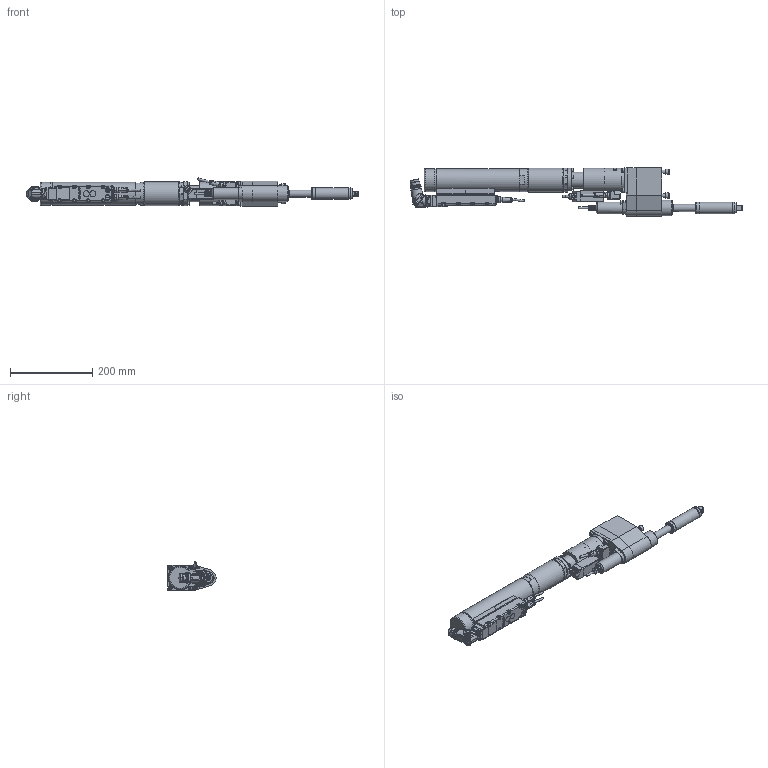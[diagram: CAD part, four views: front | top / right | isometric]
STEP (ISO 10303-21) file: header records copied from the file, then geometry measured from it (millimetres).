
FILE_DESCRIPTION (( 'STEP AP214' ), '1' );
FILE_NAME ('70082500_ESX213DRX140WX2AODX250-140.STEP', '2016-11-15T06:13:21', ( 'admin' ), ( '' ), 'SwSTEP 2.0', 'SolidWorks 2014', '' );
FILE_SCHEMA (( 'AUTOMOTIVE_DESIGN' ));
Length unit declared in the file: millimetre
Products named in the file (12): 70082304_ESX213_Standard_Winkel_2; 70082293_2; 70057493_Standard_winkel; 70057493_4; 70057493_3; 70057493_2; 70082304; 70082500_ESX213DRX140WX2AODX250-140; 7002049_3; 70082382; 70082361; 70082322
Assembly tree (12 placements, depth 4):
  70082500_ESX213DRX140WX2AODX250-140
    70082304_ESX213_Standard_Winkel_2
      70082304
      70057493_Standard_winkel
        70057493_2
        70057493_3
        70057493_4
      70082293_2  x2
    70082322
    70082361
    70082382
    7002049_3
Bounding box: 806.96 x 117.32 x 68.44 mm (x, y, z)
Volume: 2218049.9 mm3; surface area: 269129.6 mm2
Topology: 14 solids, 39 shells, 3326 faces, 8563 edges, 5547 vertices
Faces by surface type: plane 1666, cylinder 908, cone 392, bspline 270, torus 83, sphere 7
Full cylindrical faces by diameter (mm): 0.5 x14, 0.57 x14, 1.6 x1, 2 x3, 3 x4, 4.2 x11, 4.5 x1, 4.9 x7, 5 x45, 5.5 x17, 6 x2, 8 x3, 8.459 x2, 8.5 x7, 9 x7, 10 x4, 11.08 x3, 12 x1, 12.3 x3, 13 x3, 14 x6, 14.5 x2, 16.84 x1, 17.3 x1, 17.4 x1, 17.5 x2, 20 x2, 21.15 x1, 21.5 x1, 21.7 x1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
Entity records: 109566 total; most frequent: CARTESIAN_POINT 34711, ORIENTED_EDGE 15376, DIRECTION 13760, EDGE_CURVE 7688, VERTEX_POINT 5190, AXIS2_PLACEMENT_3D 5098, EDGE_LOOP 3844, LINE 3564
